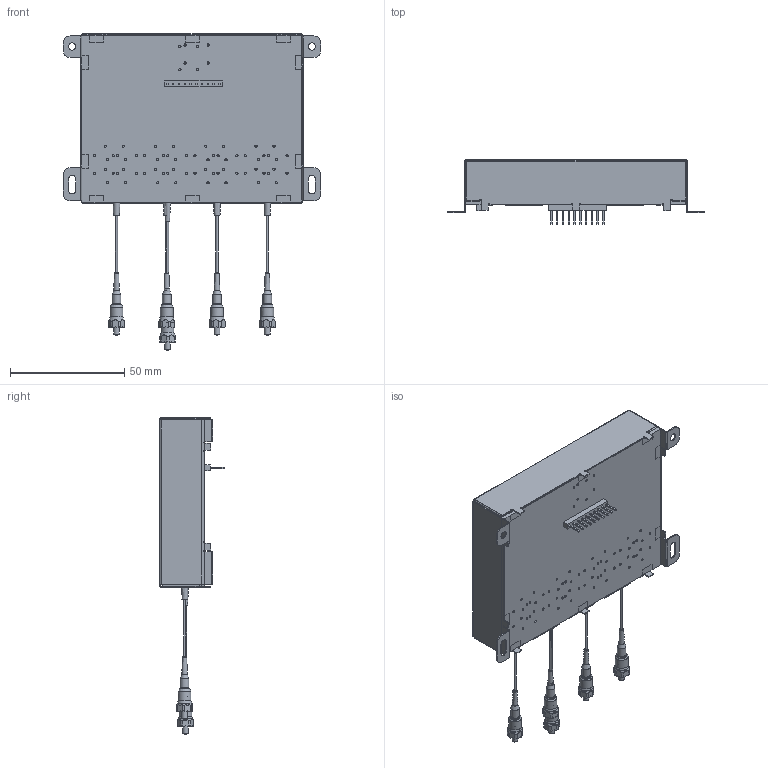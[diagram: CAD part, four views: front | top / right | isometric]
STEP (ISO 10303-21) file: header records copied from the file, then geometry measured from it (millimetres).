
FILE_DESCRIPTION (( 'STEP AP203' ), '1' );
FILE_NAME ('MS2X2 For PM Fiber.STEP', '2025-01-17T15:34:11', ( 'cad' ), ( '' ), 'SwSTEP 2.0', 'SolidWorks 2017', '' );
FILE_SCHEMA (( 'CONFIG_CONTROL_DESIGN' ));
Length unit declared in the file: millimetre
Products named in the file (13): PCB 2x2; CONNECTOR_MINI_AVIMS_1; PCB 2X2 ASM; FFSW 1X2 fast speed version; MS2X2 For PM Fiber; SW ASM; CONNECTOR_MINI_AVIMS; Rubber boot 1 fiber; MS-1VS2 ASM-FINAL; 1002385_Metal cover; 10pin array; 1000141_Rubber boot 2 fiber
Assembly tree (15 placements, depth 4):
  MS2X2 For PM Fiber
    1002385_Metal cover
    SW ASM  x3
      FFSW 1X2 fast speed version
        1000141_Rubber boot 2 fiber
        CONNECTOR_MINI_AVIMS_1
    SW ASM
      FFSW 1X2 fast speed version
        1000141_Rubber boot 2 fiber
        CONNECTOR_MINI_AVIMS_1
      MS-1VS2 ASM-FINAL
        CONNECTOR_MINI_AVIMS
        Rubber boot 1 fiber
    PCB 2X2 ASM
      10pin array
      PCB 2x2
Bounding box: 112.7 x 28.1 x 138.53 mm (x, y, z)
Volume: 18245.9 mm3; surface area: 49968.6 mm2
Topology: 10 solids, 23 shells, 1582 faces, 4584 edges, 3140 vertices
Faces by surface type: plane 903, cylinder 366, cone 215, bspline 78, torus 16, sphere 4
Full cylindrical faces by diameter (mm): 0.125 x4, 0.25 x1, 0.5 x5, 0.899 x5, 1 x83, 1.1 x10, 1.19 x1, 1.198 x1, 1.2 x8, 1.3 x5, 1.47 x5, 1.5 x5, 1.53 x5, 1.55 x5, 1.8 x5, 2.1 x5, 2.2 x5, 2.5 x15, 3.2 x2, 3.8 x5, 4.3 x5, 4.6 x6, 5 x5, 5.6 x10, 5.8 x5
Entity records: 48403 total; most frequent: CARTESIAN_POINT 20507, ORIENTED_EDGE 5705, DIRECTION 4755, EDGE_CURVE 2853, VERTEX_POINT 2044, VECTOR 1695, LINE 1695, AXIS2_PLACEMENT_3D 1530
